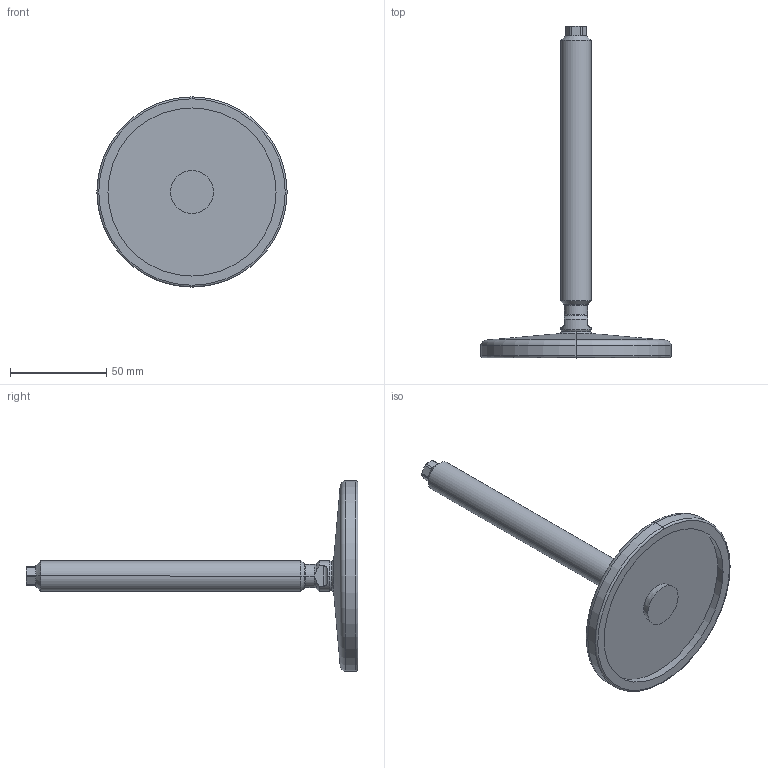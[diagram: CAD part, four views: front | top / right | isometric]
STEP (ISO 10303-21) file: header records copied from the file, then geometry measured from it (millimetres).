
FILE_DESCRIPTION (( 'STEP AP214' ), '1' );
FILE_NAME ('21-100-M16-150-D0-V.step', '2020-10-02T17:36:42', ( '' ), ( '' ), 'SwSTEP 2.0', 'SolidWorks 2019', '' );
FILE_SCHEMA (( 'AUTOMOTIVE_DESIGN' ));
Length unit declared in the file: millimetre
Products named in the file (3): WB21_Fußteller 21^WB21_V_D0-100-R10-B7 (M8 M10_M12_M16); 21-100-M16-150-D0-V; WB21_Spindel_V^WB21_V_M16-150
Assembly tree (2 placements, depth 2):
  21-100-M16-150-D0-V
    WB21_Fußteller 21^WB21_V_D0-100-R10-B7 (M8 M10_M12_M16)
    WB21_Spindel_V^WB21_V_M16-150
Bounding box: 99 x 172.64 x 99 mm (x, y, z)
Volume: 84435.6 mm3; surface area: 28042.8 mm2
Topology: 2 solids, 2 shells, 79 faces, 177 edges, 105 vertices
Faces by surface type: cylinder 23, cone 21, plane 21, torus 10, sphere 4
Entity records: 2438 total; most frequent: CARTESIAN_POINT 522, DIRECTION 406, ORIENTED_EDGE 354, EDGE_CURVE 177, AXIS2_PLACEMENT_3D 173, VERTEX_POINT 105, CIRCLE 89, EDGE_LOOP 82
